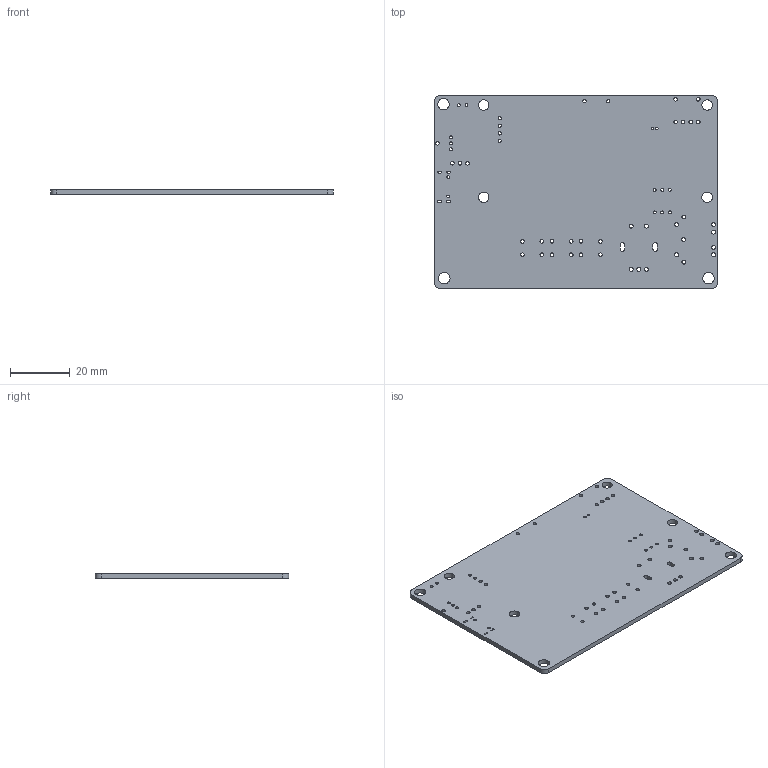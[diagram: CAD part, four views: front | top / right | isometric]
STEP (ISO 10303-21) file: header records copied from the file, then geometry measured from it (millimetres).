
FILE_DESCRIPTION(/* description */ ('STEP AP242 Edition 2','CAx-IF Rec.Pracs.---Representation and Presentation of Product Manufacturing Information (PMI)---4.0---2014-10-13','CAx-IF Rec.Pracs.---3D Tessellated Geometry---0.4---2014-09-14','2;1','CAx-IF Rec.Pracs.---User Defined Attributes---1.5---2016-08-15'),/* implementation_level */ '2;1');
FILE_NAME(/* name */ 'Assembly 1 - Board~nxQB',/* time_stamp */ '2026-04-02T09:55:07Z',/* author */ (''),/* organization */ (''),/* preprocessor_version */ 'ST-DEVELOPER v20',/* originating_system */ 'ONSHAPE BY PTC INC, 1.212',/* authorisation */ ' ');
FILE_SCHEMA (('AP242_MANAGED_MODEL_BASED_3D_ENGINEERING_MIM_LF { 1 0 10303 442 3 1 4 }'));
Length unit declared in the file: metre
Products named in the file (1): Board~nxQB
Bounding box: 94.97 x 64.97 x 1.6 mm (x, y, z)
Volume: 9638 mm3; surface area: 13058.2 mm2
Topology: 1 solids, 1 shells, 98 faces, 288 edges, 192 vertices
Faces by surface type: cylinder 80, plane 18
Full cylindrical faces by diameter (mm): 0.8 x2, 0.9 x2, 0.914 x2, 1 x9, 1.1 x6, 1.2 x22, 1.3 x5, 1.321 x9, 3.5 x4, 3.81 x3
Entity records: 4007 total; most frequent: DIRECTION 582, CARTESIAN_POINT 515, ORIENTED_EDGE 448, EDGE_LOOP 302, FACE_BOUND 302, AXIS2_PLACEMENT_3D 259, EDGE_CURVE 224, VERTEX_POINT 192
